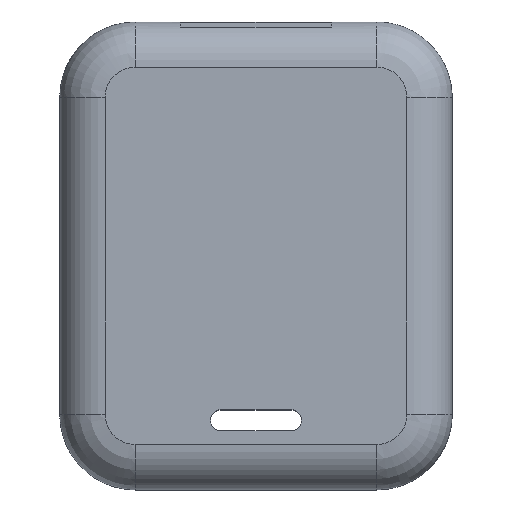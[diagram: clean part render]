
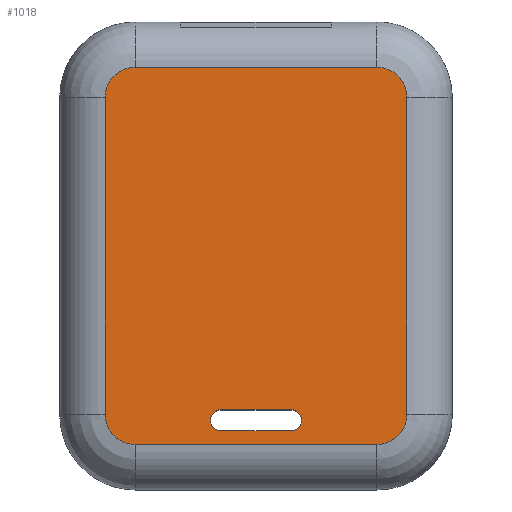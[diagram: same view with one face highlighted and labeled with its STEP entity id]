
A CAD part, top view. The second image highlights one B-rep face of the part: STEP entity #1018.
In plain terms, the highlighted planar face has unit normal (0, 0, 1).
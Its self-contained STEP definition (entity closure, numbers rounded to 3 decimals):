
#11=DIRECTION('',(0.0,0.0,1.0));
#12=DIRECTION('',(1.0,0.0,0.0));
#20=DIRECTION('',(-1.0,0.0,0.0));
#25=DIRECTION('',(0.0,1.0,0.0));
#60=DIRECTION('',(0.0,-1.0,0.0));
#213=CARTESIAN_POINT('',(10.65,3.9,14.0));
#214=CARTESIAN_POINT('',(10.526,3.9,14.0));
#215=CARTESIAN_POINT('',(10.286,3.995,14.0));
#216=CARTESIAN_POINT('',(10.095,4.186,14.));
#217=CARTESIAN_POINT('',(10.0,4.426,14.0));
#218=CARTESIAN_POINT('',(10.0,4.55,14.0));
#219=(BOUNDED_CURVE()B_SPLINE_CURVE(2,(#218,#217,#216,#215,#214,#213),.UNSPECIFIED.,.U.,.U.)B_SPLINE_CURVE_WITH_KNOTS((3,1,1,1,3),(0.0,0.25,0.5,0.75,1.0),.UNSPECIFIED.)CURVE()GEOMETRIC_REPRESENTATION_ITEM()RATIONAL_B_SPLINE_CURVE((1.0,0.927,0.854,0.854,0.927,1.0))REPRESENTATION_ITEM(''));
#220=CARTESIAN_POINT('',(10.65,3.9,14.0));
#221=VERTEX_POINT('',#220);
#222=VERTEX_POINT('',#218);
#223=EDGE_CURVE('',#222,#221,#219,.T.);
#261=CARTESIAN_POINT('',(10.,4.65,14.));
#262=VERTEX_POINT('',#261);
#265=DIRECTION('',(0.,1.0,0.));
#266=VECTOR('',#265,0.1);
#267=LINE('',#218,#266);
#268=EDGE_CURVE('',#222,#262,#267,.T.);
#277=CARTESIAN_POINT('',(10.,4.65,14.));
#278=CARTESIAN_POINT('',(10.,4.774,14.0));
#279=CARTESIAN_POINT('',(10.095,5.014,14.));
#280=CARTESIAN_POINT('',(10.286,5.205,14.0));
#281=CARTESIAN_POINT('',(10.526,5.3,14.0));
#282=CARTESIAN_POINT('',(10.65,5.3,14.0));
#283=(BOUNDED_CURVE()B_SPLINE_CURVE(2,(#282,#281,#280,#279,#278,#277),.UNSPECIFIED.,.U.,.U.)B_SPLINE_CURVE_WITH_KNOTS((3,1,1,1,3),(0.0,0.25,0.5,0.75,1.0),.UNSPECIFIED.)CURVE()GEOMETRIC_REPRESENTATION_ITEM()RATIONAL_B_SPLINE_CURVE((1.0,0.927,0.854,0.854,0.927,1.0))REPRESENTATION_ITEM(''));
#284=VERTEX_POINT('',#282);
#285=EDGE_CURVE('',#284,#262,#283,.T.);
#309=DIRECTION('',(-1.0,0.,0.));
#310=VECTOR('',#309,4.7);
#311=CARTESIAN_POINT('',(15.35,5.3,14.));
#312=LINE('',#311,#310);
#313=VERTEX_POINT('',#311);
#314=EDGE_CURVE('',#313,#284,#312,.T.);
#346=CARTESIAN_POINT('',(16.0,4.65,14.0));
#347=VERTEX_POINT('',#346);
#350=CARTESIAN_POINT('',(16.0,4.65,14.0));
#351=CARTESIAN_POINT('',(16.0,4.774,14.0));
#352=CARTESIAN_POINT('',(15.905,5.014,14.0));
#353=CARTESIAN_POINT('',(15.714,5.205,14.0));
#354=CARTESIAN_POINT('',(15.474,5.3,14.));
#355=(BOUNDED_CURVE()B_SPLINE_CURVE(2,(#311,#354,#353,#352,#351,#350),.UNSPECIFIED.,.U.,.U.)B_SPLINE_CURVE_WITH_KNOTS((3,1,1,1,3),(0.0,0.25,0.5,0.75,1.0),.UNSPECIFIED.)CURVE()GEOMETRIC_REPRESENTATION_ITEM()RATIONAL_B_SPLINE_CURVE((1.0,0.927,0.854,0.854,0.927,1.0))REPRESENTATION_ITEM(''));
#356=EDGE_CURVE('',#313,#347,#355,.T.);
#364=DIRECTION('',(0.0,1.0,0.));
#365=VECTOR('',#364,0.1);
#366=CARTESIAN_POINT('',(16.0,4.55,14.));
#367=LINE('',#366,#365);
#368=VERTEX_POINT('',#366);
#369=EDGE_CURVE('',#368,#347,#367,.T.);
#404=CARTESIAN_POINT('',(15.35,3.9,14.0));
#405=VERTEX_POINT('',#404);
#408=CARTESIAN_POINT('',(15.35,3.9,14.0));
#409=CARTESIAN_POINT('',(15.474,3.9,14.0));
#410=CARTESIAN_POINT('',(15.714,3.995,14.));
#411=CARTESIAN_POINT('',(15.905,4.186,14.));
#412=CARTESIAN_POINT('',(16.,4.426,14.));
#413=(BOUNDED_CURVE()B_SPLINE_CURVE(2,(#366,#412,#411,#410,#409,#408),.UNSPECIFIED.,.U.,.U.)B_SPLINE_CURVE_WITH_KNOTS((3,1,1,1,3),(0.0,0.25,0.5,0.75,1.0),.UNSPECIFIED.)CURVE()GEOMETRIC_REPRESENTATION_ITEM()RATIONAL_B_SPLINE_CURVE((1.0,0.927,0.854,0.854,0.927,1.0))REPRESENTATION_ITEM(''));
#414=EDGE_CURVE('',#368,#405,#413,.T.);
#429=VECTOR('',#20,4.7);
#430=LINE('',#404,#429);
#431=EDGE_CURVE('',#405,#221,#430,.T.);
#451=CARTESIAN_POINT('',(5.0,3.,14.0));
#455=VERTEX_POINT('',#451);
#473=CARTESIAN_POINT('',(3.,5.,14.0));
#475=VERTEX_POINT('',#473);
#478=CARTESIAN_POINT('',(5.,3.,14.0));
#479=CARTESIAN_POINT('',(4.619,3.,14.0));
#480=CARTESIAN_POINT('',(3.879,3.293,14.0));
#481=CARTESIAN_POINT('',(3.293,3.879,14.));
#482=CARTESIAN_POINT('',(3.,4.619,14.0));
#483=(BOUNDED_CURVE()B_SPLINE_CURVE(2,(#473,#482,#481,#480,#479,#478),.UNSPECIFIED.,.U.,.U.)B_SPLINE_CURVE_WITH_KNOTS((3,1,1,1,3),(0.0,0.25,0.5,0.75,1.0),.UNSPECIFIED.)CURVE()GEOMETRIC_REPRESENTATION_ITEM()RATIONAL_B_SPLINE_CURVE((1.0,0.927,0.854,0.854,0.927,1.0))REPRESENTATION_ITEM(''));
#484=EDGE_CURVE('',#475,#455,#483,.T.);
#495=VECTOR('',#60,21.0);
#506=CARTESIAN_POINT('',(3.,26.0,14.0));
#508=VERTEX_POINT('',#506);
#511=LINE('',#506,#495);
#512=EDGE_CURVE('',#508,#475,#511,.T.);
#543=CARTESIAN_POINT('',(5.0,28.0,14.0));
#545=VERTEX_POINT('',#543);
#548=CARTESIAN_POINT('',(3.,26.0,14.0));
#549=CARTESIAN_POINT('',(3.,26.381,14.0));
#550=CARTESIAN_POINT('',(3.293,27.121,14.0));
#551=CARTESIAN_POINT('',(3.879,27.707,14.0));
#552=CARTESIAN_POINT('',(4.619,28.0,14.0));
#553=(BOUNDED_CURVE()B_SPLINE_CURVE(2,(#543,#552,#551,#550,#549,#548),.UNSPECIFIED.,.U.,.U.)B_SPLINE_CURVE_WITH_KNOTS((3,1,1,1,3),(0.0,0.25,0.5,0.75,1.0),.UNSPECIFIED.)CURVE()GEOMETRIC_REPRESENTATION_ITEM()RATIONAL_B_SPLINE_CURVE((1.0,0.927,0.854,0.854,0.927,1.0))REPRESENTATION_ITEM(''));
#554=EDGE_CURVE('',#545,#508,#553,.T.);
#575=CARTESIAN_POINT('',(21.0,28.0,14.0));
#577=VERTEX_POINT('',#575);
#580=VECTOR('',#20,16.0);
#581=LINE('',#575,#580);
#582=EDGE_CURVE('',#577,#545,#581,.T.);
#620=CARTESIAN_POINT('',(23.0,26.0,14.0));
#622=VERTEX_POINT('',#620);
#625=CARTESIAN_POINT('',(21.381,28.0,14.0));
#626=CARTESIAN_POINT('',(22.121,27.707,14.));
#627=CARTESIAN_POINT('',(22.707,27.121,14.));
#628=CARTESIAN_POINT('',(23.0,26.381,14.0));
#629=(BOUNDED_CURVE()B_SPLINE_CURVE(2,(#620,#628,#627,#626,#625,#575),.UNSPECIFIED.,.U.,.U.)B_SPLINE_CURVE_WITH_KNOTS((3,1,1,1,3),(0.0,0.25,0.5,0.75,1.0),.UNSPECIFIED.)CURVE()GEOMETRIC_REPRESENTATION_ITEM()RATIONAL_B_SPLINE_CURVE((1.0,0.927,0.854,0.854,0.927,1.0))REPRESENTATION_ITEM(''));
#630=EDGE_CURVE('',#622,#577,#629,.T.);
#640=VECTOR('',#25,21.0);
#651=CARTESIAN_POINT('',(23.0,5.,14.0));
#653=VERTEX_POINT('',#651);
#656=LINE('',#651,#640);
#657=EDGE_CURVE('',#653,#622,#656,.T.);
#688=CARTESIAN_POINT('',(21.0,3.,14.0));
#690=VERTEX_POINT('',#688);
#693=CARTESIAN_POINT('',(23.0,5.,14.0));
#694=CARTESIAN_POINT('',(23.0,4.619,14.0));
#695=CARTESIAN_POINT('',(22.707,3.879,14.0));
#696=CARTESIAN_POINT('',(22.121,3.293,14.0));
#697=CARTESIAN_POINT('',(21.381,3.,14.0));
#698=(BOUNDED_CURVE()B_SPLINE_CURVE(2,(#688,#697,#696,#695,#694,#693),.UNSPECIFIED.,.U.,.U.)B_SPLINE_CURVE_WITH_KNOTS((3,1,1,1,3),(0.0,0.25,0.5,0.75,1.0),.UNSPECIFIED.)CURVE()GEOMETRIC_REPRESENTATION_ITEM()RATIONAL_B_SPLINE_CURVE((1.0,0.927,0.854,0.854,0.927,1.0))REPRESENTATION_ITEM(''));
#699=EDGE_CURVE('',#690,#653,#698,.T.);
#710=VECTOR('',#12,16.0);
#715=LINE('',#451,#710);
#716=EDGE_CURVE('',#455,#690,#715,.T.);
#995=CARTESIAN_POINT('',(26.,31.,14.0));
#996=AXIS2_PLACEMENT_3D('',#995,#11,#20);
#997=PLANE('',#996);
#998=ORIENTED_EDGE('',*,*,#223,.F.);
#999=ORIENTED_EDGE('',*,*,#431,.T.);
#1000=ORIENTED_EDGE('',*,*,#414,.T.);
#1001=ORIENTED_EDGE('',*,*,#369,.F.);
#1002=ORIENTED_EDGE('',*,*,#356,.T.);
#1003=ORIENTED_EDGE('',*,*,#314,.F.);
#1004=ORIENTED_EDGE('',*,*,#285,.F.);
#1005=ORIENTED_EDGE('',*,*,#268,.T.);
#1006=EDGE_LOOP('',(#1005,#1004,#1003,#1002,#1001,#1000,#999,#998));
#1007=FACE_BOUND('',#1006,.T.);
#1008=ORIENTED_EDGE('',*,*,#484,.T.);
#1009=ORIENTED_EDGE('',*,*,#512,.T.);
#1010=ORIENTED_EDGE('',*,*,#554,.T.);
#1011=ORIENTED_EDGE('',*,*,#582,.T.);
#1012=ORIENTED_EDGE('',*,*,#630,.T.);
#1013=ORIENTED_EDGE('',*,*,#657,.T.);
#1014=ORIENTED_EDGE('',*,*,#699,.T.);
#1015=ORIENTED_EDGE('',*,*,#716,.T.);
#1016=EDGE_LOOP('',(#1015,#1014,#1013,#1012,#1011,#1010,#1009,#1008));
#1017=FACE_BOUND('',#1016,.T.);
#1018=ADVANCED_FACE('',(#1017,#1007),#997,.T.);
